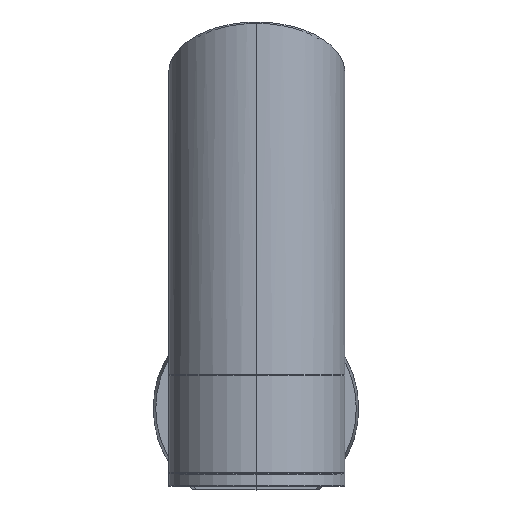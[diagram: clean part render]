
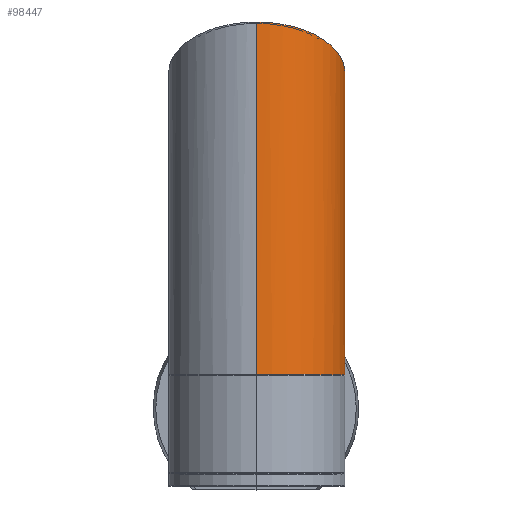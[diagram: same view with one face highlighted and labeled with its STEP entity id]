
A CAD part, top view. The second image highlights one B-rep face of the part: STEP entity #98447.
In plain terms, the highlighted cylindrical face has radius 47.5 mm (diameter 95 mm), a partial arc.
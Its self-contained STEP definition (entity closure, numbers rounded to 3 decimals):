
#98108=DIRECTION('',(0.,0.,-1.));
#98109=VECTOR('',#98108,190.);
#98110=CARTESIAN_POINT('',(-47.5,0.,190.));
#98111=LINE('',#98110,#98109);
#98112=CARTESIAN_POINT('',(-47.5,0.,0.));
#98113=CARTESIAN_POINT('',(-47.5,2.799,0.));
#98114=CARTESIAN_POINT('',(-47.003,8.606,
0.287));
#98115=CARTESIAN_POINT('',(-44.482,17.539,
1.741));
#98116=CARTESIAN_POINT('',(-40.058,26.146,
4.293));
#98117=CARTESIAN_POINT('',(-33.83,33.83,
7.885));
#98118=CARTESIAN_POINT('',(-26.147,40.058,
12.317));
#98119=CARTESIAN_POINT('',(-17.537,44.482,
17.284));
#98120=CARTESIAN_POINT('',(-10.099,46.582,
21.574));
#98121=CARTESIAN_POINT('',(-4.243,47.376,
24.952));
#98122=CARTESIAN_POINT('',(0.,47.562,27.4));
#98123=CARTESIAN_POINT('',(4.243,47.376,29.848));
#98124=CARTESIAN_POINT('',(10.099,46.582,33.226));
#98125=CARTESIAN_POINT('',(17.537,44.482,37.516));
#98126=CARTESIAN_POINT('',(26.147,40.058,42.483));
#98127=CARTESIAN_POINT('',(33.83,33.83,46.915));
#98128=CARTESIAN_POINT('',(40.058,26.146,50.507));
#98129=CARTESIAN_POINT('',(44.482,17.539,53.059));
#98130=CARTESIAN_POINT('',(47.003,8.606,54.513));
#98131=CARTESIAN_POINT('',(47.5,2.799,54.8));
#98132=CARTESIAN_POINT('',(47.5,0.,54.8));
#98134=CARTESIAN_POINT('',(47.5,0.,106.4));
#98135=CARTESIAN_POINT('',(47.5,0.19,106.4));
#98136=CARTESIAN_POINT('',(47.498,0.546,
106.462));
#98137=CARTESIAN_POINT('',(47.489,1.049,106.749));
#98138=CARTESIAN_POINT('',(47.479,1.404,107.169));
#98139=CARTESIAN_POINT('',(47.473,1.606,107.705));
#98140=CARTESIAN_POINT('',(47.473,1.61,108.273));
#98141=CARTESIAN_POINT('',(47.479,1.415,108.814));
#98142=CARTESIAN_POINT('',(47.489,1.06,109.243));
#98143=CARTESIAN_POINT('',(47.498,0.554,
109.536));
#98144=CARTESIAN_POINT('',(47.5,0.193,109.6));
#98145=CARTESIAN_POINT('',(47.5,0.,109.6));
#98147=CARTESIAN_POINT('',(0.,0.,190.));
#98148=DIRECTION('',(0.,0.,-1.));
#98149=DIRECTION('',(-1.,0.,0.));
#98150=AXIS2_PLACEMENT_3D('',#98147,#98148,#98149);
#98177=DIRECTION('',(0.,0.,-1.));
#98178=VECTOR('',#98177,80.4);
#98179=CARTESIAN_POINT('',(47.5,0.,190.));
#98180=LINE('',#98179,#98178);
#98194=DIRECTION('',(0.,0.,-1.));
#98195=VECTOR('',#98194,51.6);
#98196=CARTESIAN_POINT('',(47.5,0.,106.4));
#98197=LINE('',#98196,#98195);
#98380=CARTESIAN_POINT('',(-47.5,0.,190.));
#98381=CARTESIAN_POINT('',(47.5,0.,190.));
#98382=VERTEX_POINT('',#98380);
#98383=VERTEX_POINT('',#98381);
#98384=CARTESIAN_POINT('',(-47.5,0.,0.));
#98385=VERTEX_POINT('',#98384);
#98386=VERTEX_POINT('',#98132);
#98387=CARTESIAN_POINT('',(47.5,0.,106.4));
#98388=VERTEX_POINT('',#98387);
#98389=VERTEX_POINT('',#98145);
#98428=CARTESIAN_POINT('',(0.,0.,0.));
#98429=DIRECTION('',(0.,0.,1.));
#98430=DIRECTION('',(1.,0.,0.));
#98431=AXIS2_PLACEMENT_3D('',#98428,#98429,#98430);
#98432=CYLINDRICAL_SURFACE('',#98431,47.5);
#98434=ORIENTED_EDGE('',*,*,#98433,.F.);
#98436=ORIENTED_EDGE('',*,*,#98435,.T.);
#98438=ORIENTED_EDGE('',*,*,#98437,.T.);
#98440=ORIENTED_EDGE('',*,*,#98439,.F.);
#98442=ORIENTED_EDGE('',*,*,#98441,.T.);
#98444=ORIENTED_EDGE('',*,*,#98443,.F.);
#98445=EDGE_LOOP('',(#98434,#98436,#98438,#98440,#98442,#98444));
#98446=FACE_OUTER_BOUND('',#98445,.F.);
#98447=ADVANCED_FACE('',(#98446),#98432,.T.);
#98133=B_SPLINE_CURVE_WITH_KNOTS('',3,(#98112,#98113,#98114,#98115,#98116,
#98117,#98118,#98119,#98120,#98121,#98122,#98123,#98124,#98125,#98126,#98127,
#98128,#98129,#98130,#98131,#98132),.UNSPECIFIED.,.F.,.F.,(4,1,1,1,1,1,1,1,1,1,
1,1,1,1,1,1,1,1,4),(0.,0.063,0.125,0.188,0.25,0.313,0.375,
0.438,0.469,0.5,0.531,0.563,0.625,0.688,0.75,0.813,
0.875,0.938,1.),.UNSPECIFIED.);
#98146=B_SPLINE_CURVE_WITH_KNOTS('',3,(#98134,#98135,#98136,#98137,#98138,
#98139,#98140,#98141,#98142,#98143,#98144,#98145),.UNSPECIFIED.,.F.,.F.,(4,1,1,
1,1,1,1,1,1,4),(0.,0.111,0.222,0.333,
0.444,0.556,0.667,0.778,
0.889,1.),.UNSPECIFIED.);
#98151=CIRCLE('',#98150,47.5);
#98433=EDGE_CURVE('',#98382,#98383,#98151,.T.);
#98435=EDGE_CURVE('',#98382,#98385,#98111,.T.);
#98437=EDGE_CURVE('',#98385,#98386,#98133,.T.);
#98439=EDGE_CURVE('',#98388,#98386,#98197,.T.);
#98441=EDGE_CURVE('',#98388,#98389,#98146,.T.);
#98443=EDGE_CURVE('',#98383,#98389,#98180,.T.);
